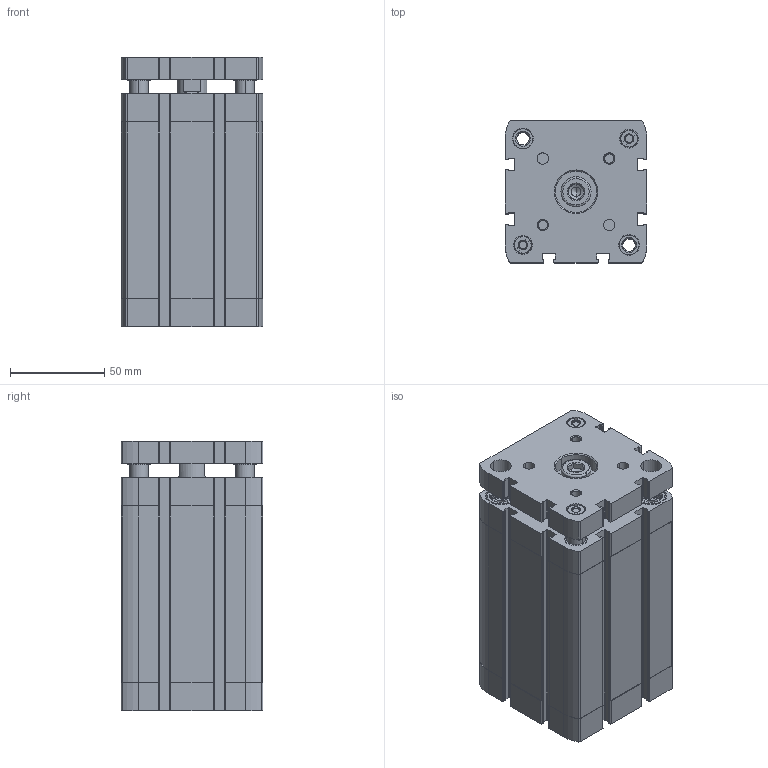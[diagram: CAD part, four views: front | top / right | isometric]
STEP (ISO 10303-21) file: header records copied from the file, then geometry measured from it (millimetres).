
FILE_DESCRIPTION (( 'STEP AP203' ), '1' );
FILE_NAME ('CCNG63-75.STEP', '2017-04-20T15:45:39', ( '' ), ( '' ), 'SwSTEP 2.0', 'SolidWorks 2016', '' );
FILE_SCHEMA (( 'CONFIG_CONTROL_DESIGN' ));
Length unit declared in the file: millimetre
Products named in the file (3): CCNG-63-75----(KS); CCNG63-75; CCNG-63-75---(Z)
Assembly tree (2 placements, depth 2):
  CCNG63-75
    CCNG-63-75---(Z)
    CCNG-63-75----(KS)
Bounding box: 75.5 x 75.5 x 143.5 mm (x, y, z)
Volume: 493583.8 mm3; surface area: 137771.5 mm2
Topology: 2 solids, 4 shells, 714 faces, 1924 edges, 1261 vertices
Faces by surface type: plane 358, cylinder 278, cone 72, bspline 6
Entity records: 23131 total; most frequent: CARTESIAN_POINT 4438, DIRECTION 3960, ORIENTED_EDGE 3844, EDGE_CURVE 1922, AXIS2_PLACEMENT_3D 1459, VERTEX_POINT 1261, VECTOR 1042, LINE 1042
